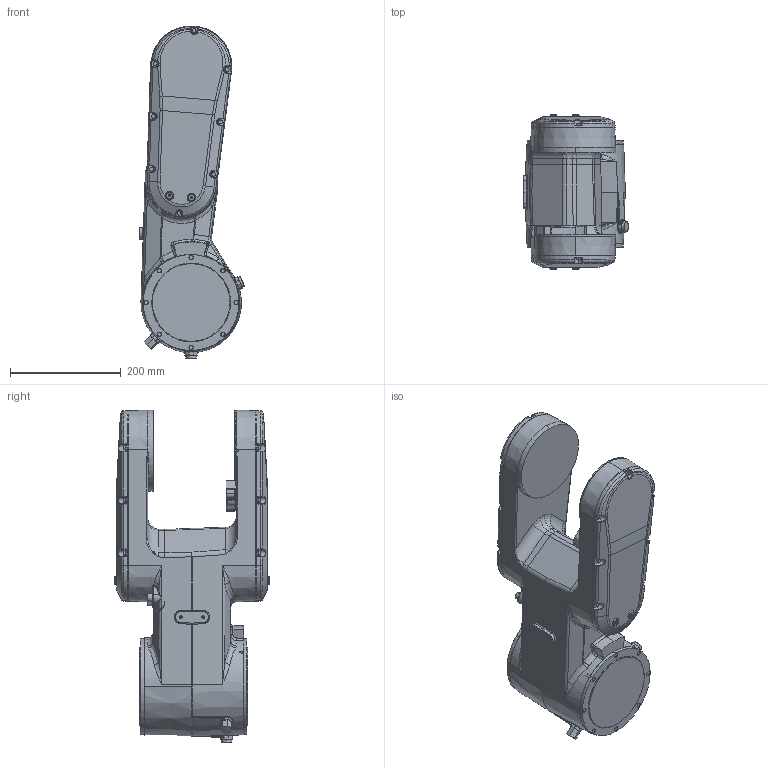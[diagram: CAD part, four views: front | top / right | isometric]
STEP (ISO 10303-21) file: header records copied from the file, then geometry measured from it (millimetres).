
FILE_DESCRIPTION (( 'STEP AP214' ), '1' );
FILE_NAME ('IRB1300 Type A_11Kg-900-Foundry-STD_OC_00_link2.STEP', '2026-05-19T13:05:52', ( '' ), ( '' ), 'SwSTEP 2.0', 'SolidWorks 2024', '' );
FILE_SCHEMA (( 'AUTOMOTIVE_DESIGN' ));
Length unit declared in the file: millimetre
Products named in the file (1): IRB1300 Type A_11Kg-900-Foundry-STD_OC_00_link2
Bounding box: 189.02 x 278 x 598.21 mm (x, y, z)
Volume: 13168108.7 mm3; surface area: 489782.1 mm2
Topology: 1 solids, 1 shells, 1369 faces, 3293 edges, 1974 vertices
Faces by surface type: cylinder 427, bspline 393, plane 261, cone 172, torus 114, sphere 2
Entity records: 60440 total; most frequent: CARTESIAN_POINT 31359, ORIENTED_EDGE 6516, DIRECTION 5543, EDGE_CURVE 3258, AXIS2_PLACEMENT_3D 2278, VERTEX_POINT 1974, EDGE_LOOP 1452, FACE_OUTER_BOUND 1369
